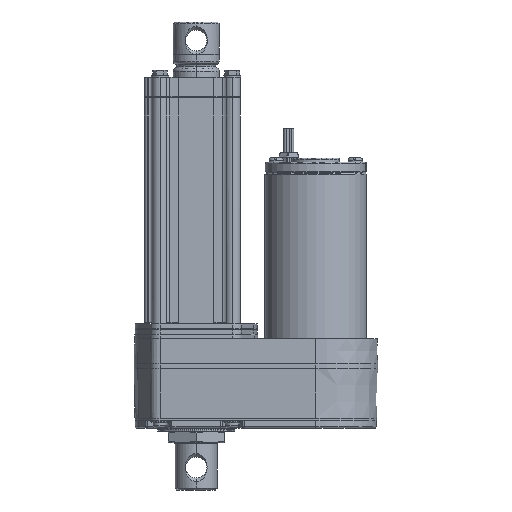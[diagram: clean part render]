
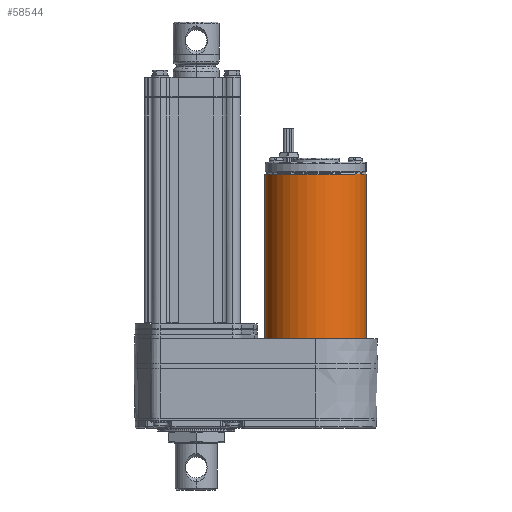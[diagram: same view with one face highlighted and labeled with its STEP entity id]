
A CAD part, left-side view. The second image highlights one B-rep face of the part: STEP entity #58544.
In plain terms, the highlighted cylindrical face has radius 31.75 mm (diameter 63.5 mm), a partial arc.
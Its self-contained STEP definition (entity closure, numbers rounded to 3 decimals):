
#997 = DIRECTION ( 'NONE',  ( 0., 0., 1. ) ) ;
#3838 = ORIENTED_EDGE ( 'NONE', *, *, #29527, .T. ) ;
#5941 = VERTEX_POINT ( 'NONE', #29577 ) ;
#7297 = EDGE_CURVE ( 'NONE', #5941, #51838, #23844, .T. ) ;
#7560 = EDGE_CURVE ( 'NONE', #51838, #55120, #21358, .T. ) ;
#8106 = VECTOR ( 'NONE', #49207, 1000. ) ;
#8888 = CARTESIAN_POINT ( 'NONE',  ( -149.378, -64.353, 188.255 ) ) ;
#12741 = AXIS2_PLACEMENT_3D ( 'NONE', #34655, #53634, #34047 ) ;
#12788 = LINE ( 'NONE', #8888, #8106 ) ;
#13024 = AXIS2_PLACEMENT_3D ( 'NONE', #55590, #55879, #56176 ) ;
#20700 = CIRCLE ( 'NONE', #13024, 31.75 ) ;
#21358 = CIRCLE ( 'NONE', #12741, 31.75 ) ;
#23844 = LINE ( 'NONE', #56644, #40595 ) ;
#29527 = EDGE_CURVE ( 'NONE', #5941, #33884, #20700, .T. ) ;
#29577 = CARTESIAN_POINT ( 'NONE',  ( -138.351, -1.817, 78.355 ) ) ;
#31067 = AXIS2_PLACEMENT_3D ( 'NONE', #48733, #44811, #54455 ) ;
#31130 = CARTESIAN_POINT ( 'NONE',  ( -149.378, -64.353, 180.755 ) ) ;
#33141 = CARTESIAN_POINT ( 'NONE',  ( -138.351, -1.817, 180.755 ) ) ;
#33444 = ORIENTED_EDGE ( 'NONE', *, *, #7560, .F. ) ;
#33884 = VERTEX_POINT ( 'NONE', #55222 ) ;
#34047 = DIRECTION ( 'NONE',  ( -0.174, -0.985, 0. ) ) ;
#34655 = CARTESIAN_POINT ( 'NONE',  ( -143.865, -33.085, 180.755 ) ) ;
#36070 = CYLINDRICAL_SURFACE ( 'NONE', #31067, 31.75 ) ;
#40383 = ORIENTED_EDGE ( 'NONE', *, *, #42051, .T. ) ;
#40595 = VECTOR ( 'NONE', #997, 1000. ) ;
#42051 = EDGE_CURVE ( 'NONE', #33884, #55120, #12788, .T. ) ;
#42801 = EDGE_LOOP ( 'NONE', ( #42824, #3838, #40383, #33444 ) ) ;
#42824 = ORIENTED_EDGE ( 'NONE', *, *, #7297, .F. ) ;
#44811 = DIRECTION ( 'NONE',  ( 0., 0., 1. ) ) ;
#48733 = CARTESIAN_POINT ( 'NONE',  ( -143.865, -33.085, 188.255 ) ) ;
#49207 = DIRECTION ( 'NONE',  ( 0., 0., 1. ) ) ;
#49330 = FACE_OUTER_BOUND ( 'NONE', #42801, .T. ) ;
#51838 = VERTEX_POINT ( 'NONE', #33141 ) ;
#53634 = DIRECTION ( 'NONE',  ( 0., 0., 1. ) ) ;
#54455 = DIRECTION ( 'NONE',  ( -0.174, -0.985, 0. ) ) ;
#55120 = VERTEX_POINT ( 'NONE', #31130 ) ;
#55222 = CARTESIAN_POINT ( 'NONE',  ( -149.378, -64.353, 78.355 ) ) ;
#55590 = CARTESIAN_POINT ( 'NONE',  ( -143.865, -33.085, 78.355 ) ) ;
#55879 = DIRECTION ( 'NONE',  ( 0., 0., 1. ) ) ;
#56176 = DIRECTION ( 'NONE',  ( 1., 0., 0. ) ) ;
#56644 = CARTESIAN_POINT ( 'NONE',  ( -138.351, -1.817, 188.255 ) ) ;
#58544 = ADVANCED_FACE ( 'NONE', ( #49330 ), #36070, .T. ) ;
